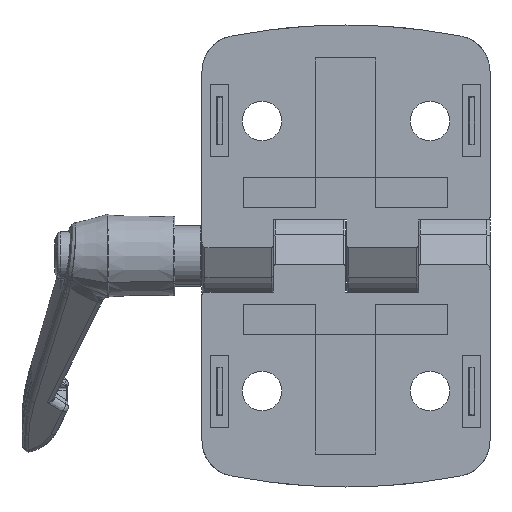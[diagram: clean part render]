
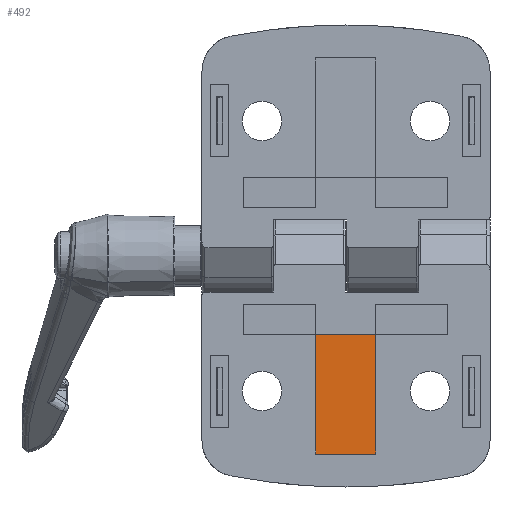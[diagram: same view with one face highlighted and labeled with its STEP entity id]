
A CAD part, front view. The second image highlights one B-rep face of the part: STEP entity #492.
In plain terms, the highlighted planar face has unit normal (0, -1, 0).
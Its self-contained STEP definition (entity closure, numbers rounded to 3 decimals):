
#492=ADVANCED_FACE('NONE',(#1566),#1567,.T.);
#1566=FACE_OUTER_BOUND('',#6101,.T.);
#1567=PLANE('',#6102);
#6101=EDGE_LOOP('',(#10070,#10071,#10072,#10073));
#6102=AXIS2_PLACEMENT_3D('',#10074,#10075,#10076);
#10070=ORIENTED_EDGE('',*,*,#13224,.T.);
#10071=ORIENTED_EDGE('',*,*,#13230,.T.);
#10072=ORIENTED_EDGE('',*,*,#13228,.T.);
#10073=ORIENTED_EDGE('',*,*,#13226,.T.);
#10074=CARTESIAN_POINT('',(-5.0,1.5,-33.0));
#10075=DIRECTION('',(0.0,-1.0,0.0));
#10076=DIRECTION('',(0.0,0.0,-1.0));
#13224=EDGE_CURVE('NONE',#15373,#15371,#15374,.T.);
#13226=EDGE_CURVE('NONE',#15376,#15373,#15377,.T.);
#13228=EDGE_CURVE('NONE',#15379,#15376,#15380,.T.);
#13230=EDGE_CURVE('NONE',#15371,#15379,#15382,.T.);
#15371=VERTEX_POINT('NONE',#20412);
#15373=VERTEX_POINT('NONE',#20415);
#15374=LINE('',#20416,#20417);
#15376=VERTEX_POINT('NONE',#20420);
#15377=LINE('',#20421,#20422);
#15379=VERTEX_POINT('NONE',#20425);
#15380=LINE('',#20426,#20427);
#15382=LINE('',#20430,#20431);
#20412=CARTESIAN_POINT('',(-5.0,1.5,-33.0));
#20415=CARTESIAN_POINT('',(-5.0,1.5,-13.01));
#20416=CARTESIAN_POINT('',(-5.0,1.5,-13.01));
#20417=VECTOR('',#23965,1000.0);
#20420=CARTESIAN_POINT('',(5.0,1.5,-13.01));
#20421=CARTESIAN_POINT('',(-5.0,1.5,-13.01));
#20422=VECTOR('',#23967,1000.0);
#20425=CARTESIAN_POINT('',(5.0,1.5,-33.0));
#20426=CARTESIAN_POINT('',(5.0,1.5,-13.01));
#20427=VECTOR('',#23969,1000.0);
#20430=CARTESIAN_POINT('',(-5.0,1.5,-33.0));
#20431=VECTOR('',#23971,1000.0);
#23965=DIRECTION('',(0.,0.0,-1.0));
#23967=DIRECTION('',(-1.0,-0.0,-0.0));
#23969=DIRECTION('',(0.,-0.0,1.0));
#23971=DIRECTION('',(1.0,0.0,0.0));
